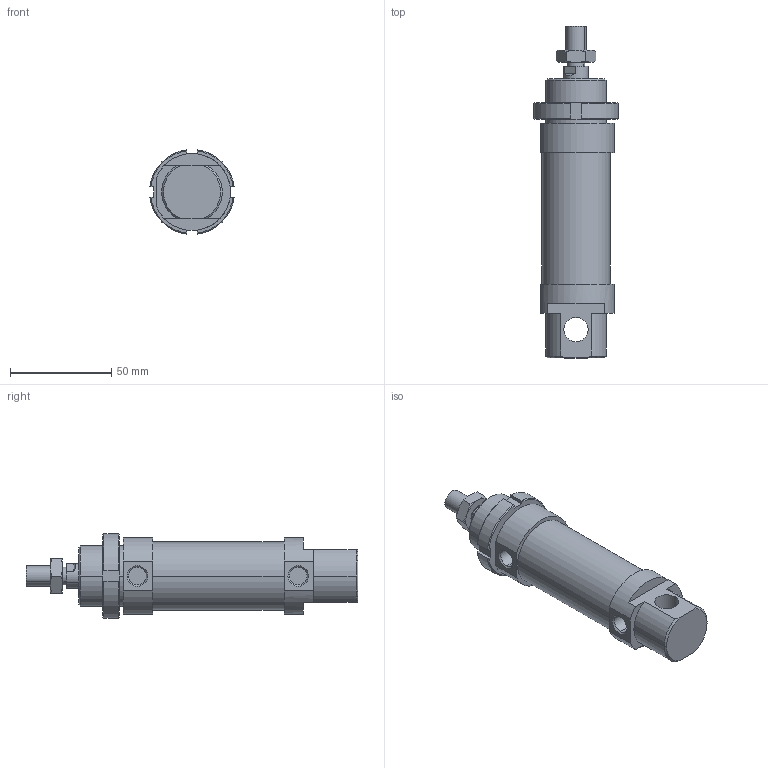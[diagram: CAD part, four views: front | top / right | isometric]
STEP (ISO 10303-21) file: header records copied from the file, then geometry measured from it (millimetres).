
FILE_DESCRIPTION((''),'2;1');
FILE_NAME('I:\DOC-EDP\Lib-3d\1200\CILINDRI\1280\1280_32_0025.stp','2003-04-07T19:04:06',('maffial1'),(''),'Autodesk Inventor (R) 6.0','Autodesk Inventor (R) 6.0','');
FILE_SCHEMA(('AUTOMOTIVE_DESIGN { 1 0 10303 214 1 1 1 1 }'));
Length unit declared in the file: millimetre
Products named in the file (5): 1280_32_0025; S1280_32_25; 1200_32_05; 1200_32_06; C1280_32_25
Assembly tree (4 placements, depth 2):
  1280_32_0025
    S1280_32_25
    1200_32_05
    1200_32_06
    C1280_32_25
Bounding box: 41.7 x 164 x 41.7 mm (x, y, z)
Volume: 123859.8 mm3; surface area: 28020.8 mm2
Topology: 4 solids, 4 shells, 122 faces, 286 edges, 180 vertices
Faces by surface type: plane 44, cone 32, cylinder 26, bspline 20
Entity records: 3831 total; most frequent: CARTESIAN_POINT 997, DIRECTION 582, ORIENTED_EDGE 572, EDGE_CURVE 286, AXIS2_PLACEMENT_3D 229, VERTEX_POINT 180, EDGE_LOOP 136, VECTOR 124
